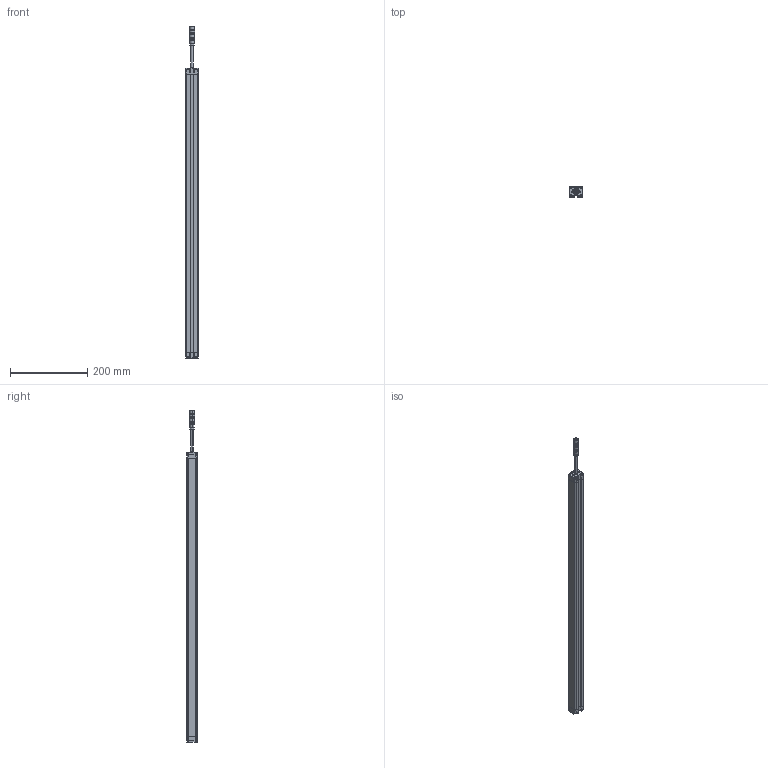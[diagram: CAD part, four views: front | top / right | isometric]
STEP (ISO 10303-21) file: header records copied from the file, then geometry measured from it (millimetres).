
FILE_DESCRIPTION((''),'2;1');
FILE_NAME('SMT1-CGQ_ASM','2025-08-08T08:30:00',('Administrator'),(''),'CREO PARAMETRIC BY PTC INC, 2016510','CREO PARAMETRIC BY PTC INC, 2016510','');
FILE_SCHEMA(('CONFIG_CONTROL_DESIGN'));
Length unit declared in the file: millimetre
Products named in the file (7): SMT1-XINGCAI-V1; SMT1-SDG-V1; SMT1-XDG-V1; M12-CHATOU; ST3X18; CT4-LVGUANGBAN; SMT1-CGQ_ASM
Assembly tree (13 placements, depth 2):
  SMT1-CGQ_ASM
    SMT1-XINGCAI-V1
    SMT1-SDG-V1
    SMT1-XDG-V1
    M12-CHATOU
    ST3X18  x8
    CT4-LVGUANGBAN
Bounding box: 33 x 28.02 x 859.5 mm (x, y, z)
Volume: 583740.1 mm3; surface area: 190177.6 mm2
Topology: 13 solids, 13 shells, 712 faces, 1868 edges, 1200 vertices
Faces by surface type: plane 382, cylinder 184, extrusion 86, sphere 32, cone 20, bspline 8
Entity records: 18128 total; most frequent: CARTESIAN_POINT 4347, ORIENTED_EDGE 2916, DIRECTION 2580, EDGE_CURVE 1458, VECTOR 1036, VERTEX_POINT 955, LINE 950, AXIS2_PLACEMENT_3D 772
